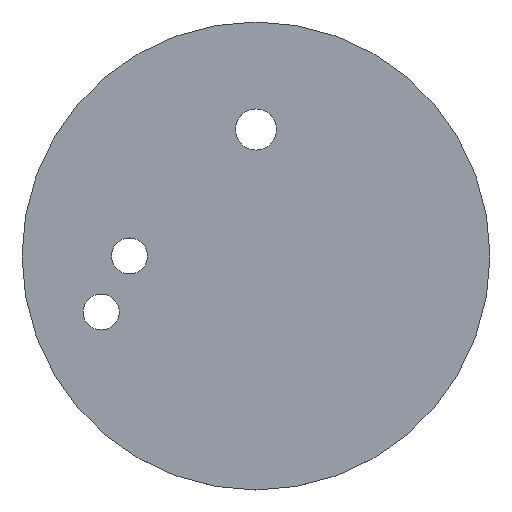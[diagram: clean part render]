
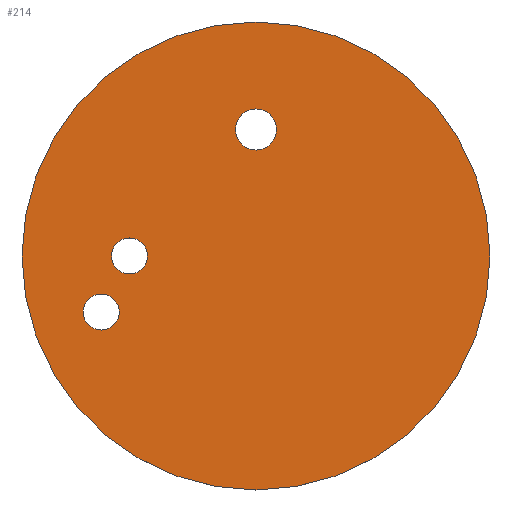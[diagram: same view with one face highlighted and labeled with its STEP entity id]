
A CAD part, top view. The second image highlights one B-rep face of the part: STEP entity #214.
In plain terms, the highlighted planar face has unit normal (0, 0, 1).
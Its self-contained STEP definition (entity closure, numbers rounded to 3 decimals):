
#24 = VERTEX_POINT('',#25);
#25 = CARTESIAN_POINT('',(45.5,0.,56.5));
#32 = CYLINDRICAL_SURFACE('',#33,45.5);
#33 = AXIS2_PLACEMENT_3D('',#34,#35,#36);
#34 = CARTESIAN_POINT('',(0.,0.,55.));
#35 = DIRECTION('',(-0.,-0.,-1.));
#36 = DIRECTION('',(1.,0.,0.));
#51 = EDGE_CURVE('',#24,#24,#52,.T.);
#52 = SURFACE_CURVE('',#53,(#58,#65),.PCURVE_S1.);
#53 = CIRCLE('',#54,45.5);
#54 = AXIS2_PLACEMENT_3D('',#55,#56,#57);
#55 = CARTESIAN_POINT('',(0.,0.,56.5));
#56 = DIRECTION('',(0.,0.,1.));
#57 = DIRECTION('',(1.,0.,0.));
#58 = PCURVE('',#32,#59);
#59 = DEFINITIONAL_REPRESENTATION('',(#60),#64);
#60 = LINE('',#61,#62);
#61 = CARTESIAN_POINT('',(-0.,-1.5));
#62 = VECTOR('',#63,1.);
#63 = DIRECTION('',(-1.,0.));
#64 = ( GEOMETRIC_REPRESENTATION_CONTEXT(2) 
PARAMETRIC_REPRESENTATION_CONTEXT() REPRESENTATION_CONTEXT('2D SPACE',''
  ) );
#65 = PCURVE('',#66,#71);
#66 = PLANE('',#67);
#67 = AXIS2_PLACEMENT_3D('',#68,#69,#70);
#68 = CARTESIAN_POINT('',(0.,0.,56.5));
#69 = DIRECTION('',(0.,0.,1.));
#70 = DIRECTION('',(1.,0.,-0.));
#71 = DEFINITIONAL_REPRESENTATION('',(#72),#76);
#72 = CIRCLE('',#73,45.5);
#73 = AXIS2_PLACEMENT_2D('',#74,#75);
#74 = CARTESIAN_POINT('',(0.,0.));
#75 = DIRECTION('',(1.,0.));
#76 = ( GEOMETRIC_REPRESENTATION_CONTEXT(2) 
PARAMETRIC_REPRESENTATION_CONTEXT() REPRESENTATION_CONTEXT('2D SPACE',''
  ) );
#133 = CYLINDRICAL_SURFACE('',#134,3.5);
#134 = AXIS2_PLACEMENT_3D('',#135,#136,#137);
#135 = CARTESIAN_POINT('',(-30.1,-10.9,54.));
#136 = DIRECTION('',(-0.,-0.,-1.));
#137 = DIRECTION('',(1.,0.,0.));
#168 = CYLINDRICAL_SURFACE('',#169,3.5);
#169 = AXIS2_PLACEMENT_3D('',#170,#171,#172);
#170 = CARTESIAN_POINT('',(-24.6,0.,54.));
#171 = DIRECTION('',(-0.,-0.,-1.));
#172 = DIRECTION('',(1.,0.,0.));
#203 = CYLINDRICAL_SURFACE('',#204,4.);
#204 = AXIS2_PLACEMENT_3D('',#205,#206,#207);
#205 = CARTESIAN_POINT('',(0.,24.6,54.));
#206 = DIRECTION('',(-0.,-0.,-1.));
#207 = DIRECTION('',(1.,0.,0.));
#214 = ADVANCED_FACE('',(#215,#218,#248,#278),#66,.T.);
#215 = FACE_BOUND('',#216,.T.);
#216 = EDGE_LOOP('',(#217));
#217 = ORIENTED_EDGE('',*,*,#51,.T.);
#218 = FACE_BOUND('',#219,.T.);
#219 = EDGE_LOOP('',(#220));
#220 = ORIENTED_EDGE('',*,*,#221,.T.);
#221 = EDGE_CURVE('',#222,#222,#224,.T.);
#222 = VERTEX_POINT('',#223);
#223 = CARTESIAN_POINT('',(-26.6,-10.9,56.5));
#224 = SURFACE_CURVE('',#225,(#230,#241),.PCURVE_S1.);
#225 = CIRCLE('',#226,3.5);
#226 = AXIS2_PLACEMENT_3D('',#227,#228,#229);
#227 = CARTESIAN_POINT('',(-30.1,-10.9,56.5));
#228 = DIRECTION('',(0.,0.,-1.));
#229 = DIRECTION('',(1.,0.,0.));
#230 = PCURVE('',#66,#231);
#231 = DEFINITIONAL_REPRESENTATION('',(#232),#240);
#232 = ( BOUNDED_CURVE() B_SPLINE_CURVE(2,(#233,#234,#235,#236,#237,#238
,#239),.UNSPECIFIED.,.T.,.F.) B_SPLINE_CURVE_WITH_KNOTS((1,2,2,2,2,1),(
    -2.094,0.,2.094,4.189,6.283,
8.378),.UNSPECIFIED.) CURVE() GEOMETRIC_REPRESENTATION_ITEM() 
RATIONAL_B_SPLINE_CURVE((1.,0.5,1.,0.5,1.,0.5,1.)) REPRESENTATION_ITEM(
  '') );
#233 = CARTESIAN_POINT('',(-26.6,-10.9));
#234 = CARTESIAN_POINT('',(-26.6,-16.962));
#235 = CARTESIAN_POINT('',(-31.85,-13.931));
#236 = CARTESIAN_POINT('',(-37.1,-10.9));
#237 = CARTESIAN_POINT('',(-31.85,-7.869));
#238 = CARTESIAN_POINT('',(-26.6,-4.838));
#239 = CARTESIAN_POINT('',(-26.6,-10.9));
#240 = ( GEOMETRIC_REPRESENTATION_CONTEXT(2) 
PARAMETRIC_REPRESENTATION_CONTEXT() REPRESENTATION_CONTEXT('2D SPACE',''
  ) );
#241 = PCURVE('',#133,#242);
#242 = DEFINITIONAL_REPRESENTATION('',(#243),#247);
#243 = LINE('',#244,#245);
#244 = CARTESIAN_POINT('',(-6.283,-2.5));
#245 = VECTOR('',#246,1.);
#246 = DIRECTION('',(1.,-0.));
#247 = ( GEOMETRIC_REPRESENTATION_CONTEXT(2) 
PARAMETRIC_REPRESENTATION_CONTEXT() REPRESENTATION_CONTEXT('2D SPACE',''
  ) );
#248 = FACE_BOUND('',#249,.T.);
#249 = EDGE_LOOP('',(#250));
#250 = ORIENTED_EDGE('',*,*,#251,.T.);
#251 = EDGE_CURVE('',#252,#252,#254,.T.);
#252 = VERTEX_POINT('',#253);
#253 = CARTESIAN_POINT('',(-21.1,0.,56.5));
#254 = SURFACE_CURVE('',#255,(#260,#271),.PCURVE_S1.);
#255 = CIRCLE('',#256,3.5);
#256 = AXIS2_PLACEMENT_3D('',#257,#258,#259);
#257 = CARTESIAN_POINT('',(-24.6,0.,56.5));
#258 = DIRECTION('',(0.,0.,-1.));
#259 = DIRECTION('',(1.,0.,0.));
#260 = PCURVE('',#66,#261);
#261 = DEFINITIONAL_REPRESENTATION('',(#262),#270);
#262 = ( BOUNDED_CURVE() B_SPLINE_CURVE(2,(#263,#264,#265,#266,#267,#268
,#269),.UNSPECIFIED.,.T.,.F.) B_SPLINE_CURVE_WITH_KNOTS((1,2,2,2,2,1),(
    -2.094,0.,2.094,4.189,6.283,
8.378),.UNSPECIFIED.) CURVE() GEOMETRIC_REPRESENTATION_ITEM() 
RATIONAL_B_SPLINE_CURVE((1.,0.5,1.,0.5,1.,0.5,1.)) REPRESENTATION_ITEM(
  '') );
#263 = CARTESIAN_POINT('',(-21.1,0.));
#264 = CARTESIAN_POINT('',(-21.1,-6.062));
#265 = CARTESIAN_POINT('',(-26.35,-3.031));
#266 = CARTESIAN_POINT('',(-31.6,0.));
#267 = CARTESIAN_POINT('',(-26.35,3.031));
#268 = CARTESIAN_POINT('',(-21.1,6.062));
#269 = CARTESIAN_POINT('',(-21.1,0.));
#270 = ( GEOMETRIC_REPRESENTATION_CONTEXT(2) 
PARAMETRIC_REPRESENTATION_CONTEXT() REPRESENTATION_CONTEXT('2D SPACE',''
  ) );
#271 = PCURVE('',#168,#272);
#272 = DEFINITIONAL_REPRESENTATION('',(#273),#277);
#273 = LINE('',#274,#275);
#274 = CARTESIAN_POINT('',(-6.283,-2.5));
#275 = VECTOR('',#276,1.);
#276 = DIRECTION('',(1.,-0.));
#277 = ( GEOMETRIC_REPRESENTATION_CONTEXT(2) 
PARAMETRIC_REPRESENTATION_CONTEXT() REPRESENTATION_CONTEXT('2D SPACE',''
  ) );
#278 = FACE_BOUND('',#279,.T.);
#279 = EDGE_LOOP('',(#280));
#280 = ORIENTED_EDGE('',*,*,#281,.T.);
#281 = EDGE_CURVE('',#282,#282,#284,.T.);
#282 = VERTEX_POINT('',#283);
#283 = CARTESIAN_POINT('',(4.,24.6,56.5));
#284 = SURFACE_CURVE('',#285,(#290,#301),.PCURVE_S1.);
#285 = CIRCLE('',#286,4.);
#286 = AXIS2_PLACEMENT_3D('',#287,#288,#289);
#287 = CARTESIAN_POINT('',(0.,24.6,56.5));
#288 = DIRECTION('',(0.,0.,-1.));
#289 = DIRECTION('',(1.,0.,0.));
#290 = PCURVE('',#66,#291);
#291 = DEFINITIONAL_REPRESENTATION('',(#292),#300);
#292 = ( BOUNDED_CURVE() B_SPLINE_CURVE(2,(#293,#294,#295,#296,#297,#298
,#299),.UNSPECIFIED.,.T.,.F.) B_SPLINE_CURVE_WITH_KNOTS((1,2,2,2,2,1),(
    -2.094,0.,2.094,4.189,6.283,
8.378),.UNSPECIFIED.) CURVE() GEOMETRIC_REPRESENTATION_ITEM() 
RATIONAL_B_SPLINE_CURVE((1.,0.5,1.,0.5,1.,0.5,1.)) REPRESENTATION_ITEM(
  '') );
#293 = CARTESIAN_POINT('',(4.,24.6));
#294 = CARTESIAN_POINT('',(4.,17.672));
#295 = CARTESIAN_POINT('',(-2.,21.136));
#296 = CARTESIAN_POINT('',(-8.,24.6));
#297 = CARTESIAN_POINT('',(-2.,28.064));
#298 = CARTESIAN_POINT('',(4.,31.528));
#299 = CARTESIAN_POINT('',(4.,24.6));
#300 = ( GEOMETRIC_REPRESENTATION_CONTEXT(2) 
PARAMETRIC_REPRESENTATION_CONTEXT() REPRESENTATION_CONTEXT('2D SPACE',''
  ) );
#301 = PCURVE('',#203,#302);
#302 = DEFINITIONAL_REPRESENTATION('',(#303),#307);
#303 = LINE('',#304,#305);
#304 = CARTESIAN_POINT('',(-6.283,-2.5));
#305 = VECTOR('',#306,1.);
#306 = DIRECTION('',(1.,-0.));
#307 = ( GEOMETRIC_REPRESENTATION_CONTEXT(2) 
PARAMETRIC_REPRESENTATION_CONTEXT() REPRESENTATION_CONTEXT('2D SPACE',''
  ) );
